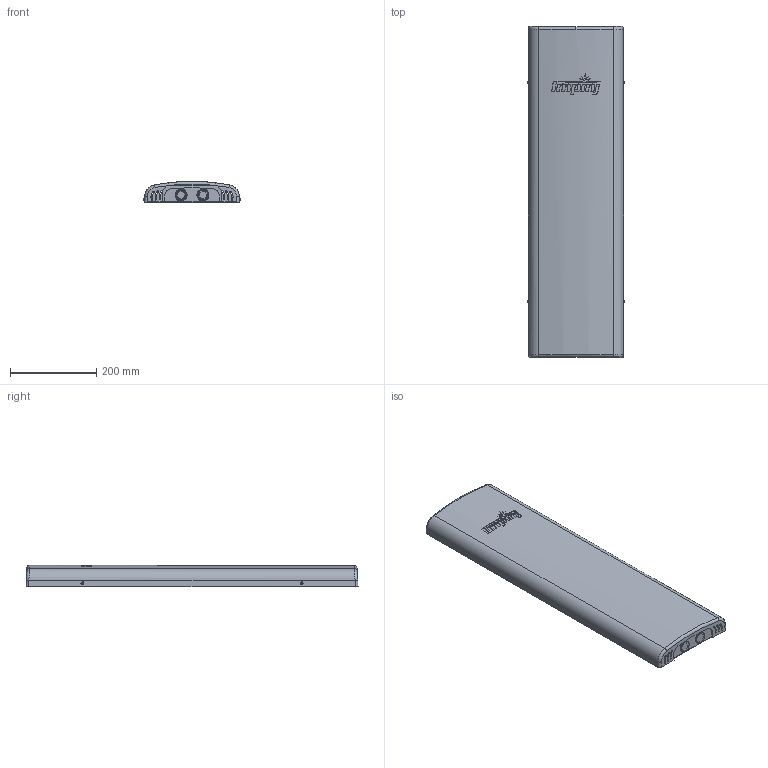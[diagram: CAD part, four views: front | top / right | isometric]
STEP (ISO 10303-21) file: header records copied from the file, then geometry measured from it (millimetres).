
FILE_DESCRIPTION (( 'STEP AP203' ), '1' );
FILE_NAME ('Xportal.STEP', '2016-02-23T17:19:15', ( '' ), ( '' ), 'SwSTEP 2.0', 'SolidWorks 2015', '' );
FILE_SCHEMA (( 'CONFIG_CONTROL_DESIGN' ));
Length unit declared in the file: inch
Products named in the file (15): Xportal; STANDOFF_PEM_SS_632x3-4L; 425-00008_9688K49; Standoff_PEM_SS_Blind_1-4-20x1-2L; Stud_Pem_SS_832x3-8; Standoff_PEM_SS_Blind_M4x1cm; 472-00009_96278A009; 450-00012_96278A007; 430-00002; 445-00003; Stud_Pem_SS_632x5-16; 472-00007_90272A145; 820-00008; Nut_PEM_SS_6-32; 432-00002
Assembly tree (62 placements, depth 3):
  Xportal
    820-00008
      430-00002
      Nut_PEM_SS_6-32  x4
      Standoff_PEM_SS_Blind_1-4-20x1-2L  x6
      Standoff_PEM_SS_Blind_M4x1cm  x8
      STANDOFF_PEM_SS_632x3-4L  x8
      Stud_Pem_SS_832x3-8  x4
      Stud_Pem_SS_632x5-16  x6
    472-00009_96278A009  x4
    425-00008_9688K49  x3
    445-00003  x6
    450-00012_96278A007  x6
    432-00002
    472-00007_90272A145  x4
Bounding box: 224.69 x 769.94 x 49.21 mm (x, y, z)
Volume: 1005704.7 mm3; surface area: 854791.6 mm2
Topology: 61 solids, 61 shells, 3235 faces, 8249 edges, 5316 vertices
Faces by surface type: cylinder 1202, plane 768, cone 704, bspline 531, torus 22, sphere 8
Entity records: 46382 total; most frequent: CARTESIAN_POINT 20258, ORIENTED_EDGE 5274, DIRECTION 4280, EDGE_CURVE 2637, VERTEX_POINT 1726, AXIS2_PLACEMENT_3D 1661, EDGE_LOOP 1173, FACE_OUTER_BOUND 984
